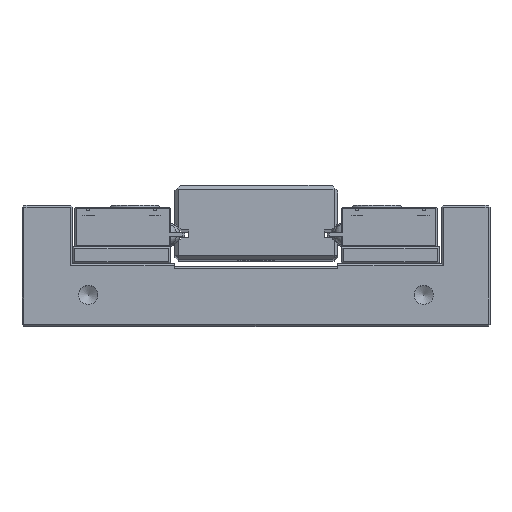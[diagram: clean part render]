
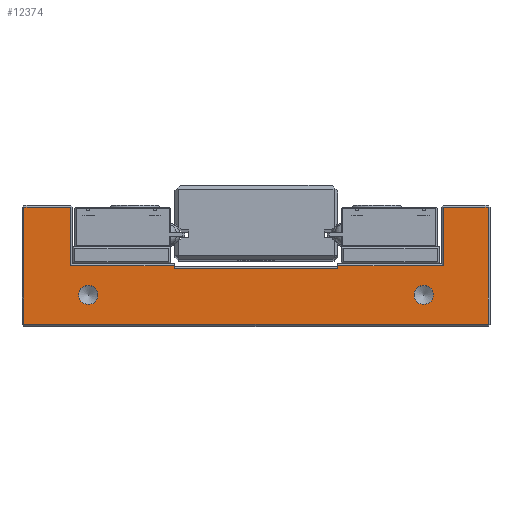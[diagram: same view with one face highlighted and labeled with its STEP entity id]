
A CAD part, top view. The second image highlights one B-rep face of the part: STEP entity #12374.
In plain terms, the highlighted planar face has unit normal (0, 0, 1).
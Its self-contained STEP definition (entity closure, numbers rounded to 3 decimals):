
#406=FACE_BOUND('',#2260,.T.);
#407=FACE_BOUND('',#2261,.T.);
#905=PLANE('',#13442);
#1517=FACE_OUTER_BOUND('',#2259,.T.);
#2259=EDGE_LOOP('',(#10438,#10439,#10440,#10441,#10442,#10443,#10444,#10445,
#10446,#10447,#10448,#10449));
#2260=EDGE_LOOP('',(#10450));
#2261=EDGE_LOOP('',(#10451));
#3229=LINE('',#20430,#4253);
#3301=LINE('',#20644,#4325);
#3330=LINE('',#20698,#4354);
#3332=LINE('',#20701,#4356);
#3334=LINE('',#20705,#4358);
#3335=LINE('',#20707,#4359);
#3337=LINE('',#20711,#4361);
#3338=LINE('',#20713,#4362);
#3341=LINE('',#20718,#4365);
#3343=LINE('',#20722,#4367);
#3345=LINE('',#20726,#4369);
#3346=LINE('',#20728,#4370);
#4253=VECTOR('',#15948,10.);
#4325=VECTOR('',#16172,10.);
#4354=VECTOR('',#16235,10.);
#4356=VECTOR('',#16239,10.);
#4358=VECTOR('',#16245,10.);
#4359=VECTOR('',#16248,10.);
#4361=VECTOR('',#16254,10.);
#4362=VECTOR('',#16257,10.);
#4365=VECTOR('',#16262,10.);
#4367=VECTOR('',#16266,10.);
#4369=VECTOR('',#16272,10.);
#4370=VECTOR('',#16275,10.);
#4813=CIRCLE('',#13443,2.459);
#4814=CIRCLE('',#13444,2.459);
#5738=VERTEX_POINT('',#20423);
#5741=VERTEX_POINT('',#20428);
#5799=VERTEX_POINT('',#20609);
#5804=VERTEX_POINT('',#20627);
#5806=VERTEX_POINT('',#20641);
#5807=VERTEX_POINT('',#20643);
#5808=VERTEX_POINT('',#20647);
#5810=VERTEX_POINT('',#20659);
#5811=VERTEX_POINT('',#20664);
#5813=VERTEX_POINT('',#20682);
#5816=VERTEX_POINT('',#20717);
#5817=VERTEX_POINT('',#20721);
#5818=VERTEX_POINT('',#20729);
#5819=VERTEX_POINT('',#20731);
#7277=EDGE_CURVE('',#5741,#5738,#3229,.T.);
#7383=EDGE_CURVE('',#5806,#5807,#3301,.T.);
#7412=EDGE_CURVE('',#5810,#5813,#3330,.T.);
#7414=EDGE_CURVE('',#5813,#5811,#3332,.T.);
#7416=EDGE_CURVE('',#5811,#5808,#3334,.T.);
#7417=EDGE_CURVE('',#5807,#5810,#3335,.T.);
#7419=EDGE_CURVE('',#5808,#5804,#3337,.T.);
#7420=EDGE_CURVE('',#5804,#5799,#3338,.T.);
#7423=EDGE_CURVE('',#5799,#5816,#3341,.T.);
#7425=EDGE_CURVE('',#5816,#5817,#3343,.T.);
#7427=EDGE_CURVE('',#5741,#5817,#3345,.T.);
#7428=EDGE_CURVE('',#5806,#5738,#3346,.T.);
#7429=EDGE_CURVE('',#5818,#5818,#4813,.T.);
#7430=EDGE_CURVE('',#5819,#5819,#4814,.T.);
#10438=ORIENTED_EDGE('',*,*,#7427,.T.);
#10439=ORIENTED_EDGE('',*,*,#7425,.F.);
#10440=ORIENTED_EDGE('',*,*,#7423,.F.);
#10441=ORIENTED_EDGE('',*,*,#7420,.F.);
#10442=ORIENTED_EDGE('',*,*,#7419,.F.);
#10443=ORIENTED_EDGE('',*,*,#7416,.F.);
#10444=ORIENTED_EDGE('',*,*,#7414,.F.);
#10445=ORIENTED_EDGE('',*,*,#7412,.F.);
#10446=ORIENTED_EDGE('',*,*,#7417,.F.);
#10447=ORIENTED_EDGE('',*,*,#7383,.F.);
#10448=ORIENTED_EDGE('',*,*,#7428,.T.);
#10449=ORIENTED_EDGE('',*,*,#7277,.F.);
#10450=ORIENTED_EDGE('',*,*,#7429,.T.);
#10451=ORIENTED_EDGE('',*,*,#7430,.T.);
#12374=ADVANCED_FACE('',(#1517,#406,#407),#905,.T.);
#13442=AXIS2_PLACEMENT_3D('',#20727,#16273,#16274);
#13443=AXIS2_PLACEMENT_3D('',#20730,#16276,#16277);
#13444=AXIS2_PLACEMENT_3D('',#20732,#16278,#16279);
#15948=DIRECTION('',(1.,0.,0.));
#16172=DIRECTION('',(1.,0.,0.));
#16235=DIRECTION('',(1.,0.,0.));
#16239=DIRECTION('',(0.,-1.,0.));
#16245=DIRECTION('',(-1.,0.,0.));
#16248=DIRECTION('',(0.,1.,0.));
#16254=DIRECTION('',(0.,1.,0.));
#16257=DIRECTION('',(1.,0.,0.));
#16262=DIRECTION('',(0.,-1.,0.));
#16266=DIRECTION('',(1.,0.,0.));
#16272=DIRECTION('',(0.,1.,0.));
#16273=DIRECTION('center_axis',(0.,0.,1.));
#16274=DIRECTION('ref_axis',(1.,0.,0.));
#16275=DIRECTION('',(0.,-1.,0.));
#16276=DIRECTION('center_axis',(0.,0.,-1.));
#16277=DIRECTION('ref_axis',(-1.,0.,0.));
#16278=DIRECTION('center_axis',(0.,0.,-1.));
#16279=DIRECTION('ref_axis',(-1.,0.,0.));
#20423=CARTESIAN_POINT('',(23.66,11.195,52.5));
#20428=CARTESIAN_POINT('',(-18.34,11.195,52.5));
#20430=CARTESIAN_POINT('',(13.16,11.195,52.5));
#20609=CARTESIAN_POINT('',(-44.84,26.995,52.5));
#20627=CARTESIAN_POINT('',(-56.84,26.995,52.5));
#20641=CARTESIAN_POINT('',(23.66,11.995,52.5));
#20643=CARTESIAN_POINT('',(50.66,11.995,52.5));
#20644=CARTESIAN_POINT('',(26.41,11.995,52.5));
#20647=CARTESIAN_POINT('',(-56.84,-3.005,52.5));
#20659=CARTESIAN_POINT('',(50.66,26.995,52.5));
#20664=CARTESIAN_POINT('',(62.16,-3.005,52.5));
#20682=CARTESIAN_POINT('',(62.16,26.995,52.5));
#20698=CARTESIAN_POINT('',(32.66,26.995,52.5));
#20701=CARTESIAN_POINT('',(62.16,4.245,52.5));
#20705=CARTESIAN_POINT('',(-27.34,-3.005,52.5));
#20707=CARTESIAN_POINT('',(50.66,19.745,52.5));
#20711=CARTESIAN_POINT('',(-56.84,19.745,52.5));
#20713=CARTESIAN_POINT('',(-20.84,26.995,52.5));
#20717=CARTESIAN_POINT('',(-44.84,11.995,52.5));
#20718=CARTESIAN_POINT('',(-44.84,12.245,52.5));
#20721=CARTESIAN_POINT('',(-18.34,11.995,52.5));
#20722=CARTESIAN_POINT('',(-7.84,11.995,52.5));
#20726=CARTESIAN_POINT('',(-18.34,11.695,52.5));
#20727=CARTESIAN_POINT('Origin',(2.66,11.995,52.5));
#20728=CARTESIAN_POINT('',(23.66,12.495,52.5));
#20729=CARTESIAN_POINT('',(-37.881,4.495,52.5));
#20730=CARTESIAN_POINT('Origin',(-40.34,4.495,52.5));
#20731=CARTESIAN_POINT('',(48.119,4.495,52.5));
#20732=CARTESIAN_POINT('Origin',(45.66,4.495,52.5));
